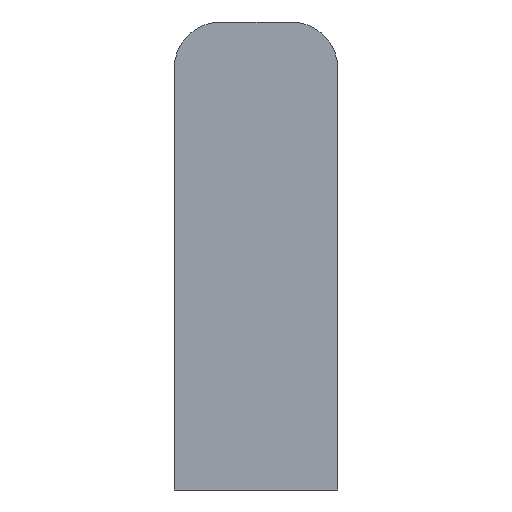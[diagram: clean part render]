
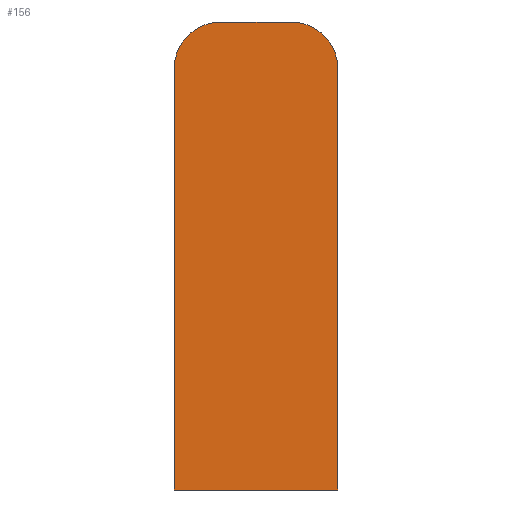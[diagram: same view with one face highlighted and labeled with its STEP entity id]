
A CAD part, front view. The second image highlights one B-rep face of the part: STEP entity #156.
In plain terms, the highlighted planar face has unit normal (0, -1, 0).
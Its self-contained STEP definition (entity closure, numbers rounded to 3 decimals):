
#24 = ORIENTED_EDGE ( 'NONE', *, *, #187, .T. ) ;
#25 = ORIENTED_EDGE ( 'NONE', *, *, #176, .T. ) ;
#26 = ORIENTED_EDGE ( 'NONE', *, *, #214, .T. ) ;
#27 = ORIENTED_EDGE ( 'NONE', *, *, #213, .T. ) ;
#28 = ORIENTED_EDGE ( 'NONE', *, *, #177, .T. ) ;
#29 = ORIENTED_EDGE ( 'NONE', *, *, #174, .T. ) ;
#74 = FACE_OUTER_BOUND ( 'NONE', #237, .T. ) ;
#86 = LINE ( 'NONE', #301, #96 ) ;
#95 = VECTOR ( 'NONE', #308, 1000. ) ;
#96 = VECTOR ( 'NONE', #303, 1000. ) ;
#97 = LINE ( 'NONE', #307, #95 ) ;
#100 = CIRCLE ( 'NONE', #200, 3. ) ;
#109 = LINE ( 'NONE', #340, #110 ) ;
#110 = VECTOR ( 'NONE', #339, 1000. ) ;
#119 = VECTOR ( 'NONE', #357, 1000. ) ;
#121 = LINE ( 'NONE', #356, #119 ) ;
#131 = CIRCLE ( 'NONE', #192, 3. ) ;
#156 = ADVANCED_FACE ( 'NONE', ( #74 ), #271, .F. ) ;
#172 = AXIS2_PLACEMENT_3D ( 'NONE', #270, #273, #274 ) ;
#174 = EDGE_CURVE ( 'NONE', #241, #325, #86, .T. ) ;
#176 = EDGE_CURVE ( 'NONE', #245, #327, #100, .T. ) ;
#177 = EDGE_CURVE ( 'NONE', #320, #241, #97, .T. ) ;
#187 = EDGE_CURVE ( 'NONE', #325, #245, #109, .T. ) ;
#192 = AXIS2_PLACEMENT_3D ( 'NONE', #351, #354, #355 ) ;
#200 = AXIS2_PLACEMENT_3D ( 'NONE', #304, #305, #306 ) ;
#213 = EDGE_CURVE ( 'NONE', #337, #320, #131, .T. ) ;
#214 = EDGE_CURVE ( 'NONE', #327, #337, #121, .T. ) ;
#237 = EDGE_LOOP ( 'NONE', ( #24, #25, #26, #27, #28, #29 ) ) ;
#241 = VERTEX_POINT ( 'NONE', #372 ) ;
#245 = VERTEX_POINT ( 'NONE', #373 ) ;
#270 = CARTESIAN_POINT ( 'NONE',  ( 0., 0., -1.5 ) ) ;
#271 = PLANE ( 'NONE',  #172 ) ;
#273 = DIRECTION ( 'NONE',  ( 0., 1., 0. ) ) ;
#274 = DIRECTION ( 'NONE',  ( -1., 0., 0. ) ) ;
#301 = CARTESIAN_POINT ( 'NONE',  ( 5.25, 0., -16.5 ) ) ;
#303 = DIRECTION ( 'NONE',  ( 1., 0., 0. ) ) ;
#304 = CARTESIAN_POINT ( 'NONE',  ( 2.25, 0., 10.5 ) ) ;
#305 = DIRECTION ( 'NONE',  ( 0., -1., 0. ) ) ;
#306 = DIRECTION ( 'NONE',  ( -1., 0., 0. ) ) ;
#307 = CARTESIAN_POINT ( 'NONE',  ( -5.25, 0., -16.5 ) ) ;
#308 = DIRECTION ( 'NONE',  ( 0., 0., -1. ) ) ;
#320 = VERTEX_POINT ( 'NONE', #374 ) ;
#325 = VERTEX_POINT ( 'NONE', #375 ) ;
#327 = VERTEX_POINT ( 'NONE', #371 ) ;
#337 = VERTEX_POINT ( 'NONE', #380 ) ;
#339 = DIRECTION ( 'NONE',  ( 0., 0., 1. ) ) ;
#340 = CARTESIAN_POINT ( 'NONE',  ( 5.25, 0., -16.5 ) ) ;
#351 = CARTESIAN_POINT ( 'NONE',  ( -2.25, 0., 10.5 ) ) ;
#354 = DIRECTION ( 'NONE',  ( 0., -1., 0. ) ) ;
#355 = DIRECTION ( 'NONE',  ( -1., 0., 0. ) ) ;
#356 = CARTESIAN_POINT ( 'NONE',  ( 2.25, 0., 13.5 ) ) ;
#357 = DIRECTION ( 'NONE',  ( -1., 0., 0. ) ) ;
#371 = CARTESIAN_POINT ( 'NONE',  ( 2.25, 0., 13.5 ) ) ;
#372 = CARTESIAN_POINT ( 'NONE',  ( -5.25, 0., -16.5 ) ) ;
#373 = CARTESIAN_POINT ( 'NONE',  ( 5.25, 0., 10.5 ) ) ;
#374 = CARTESIAN_POINT ( 'NONE',  ( -5.25, 0., 10.5 ) ) ;
#375 = CARTESIAN_POINT ( 'NONE',  ( 5.25, 0., -16.5 ) ) ;
#380 = CARTESIAN_POINT ( 'NONE',  ( -2.25, 0., 13.5 ) ) ;
